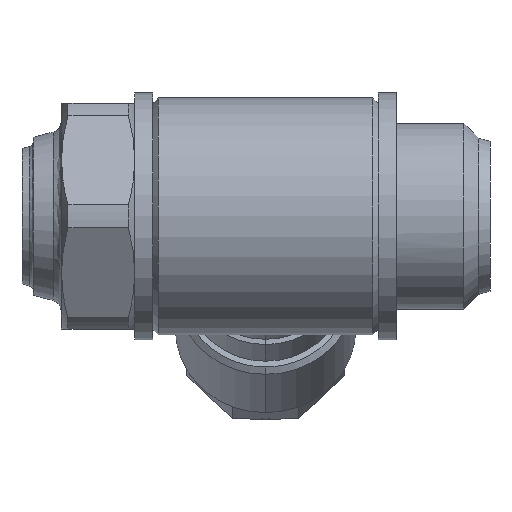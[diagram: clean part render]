
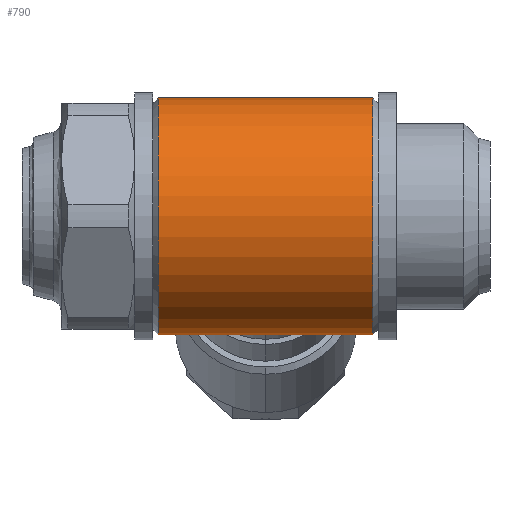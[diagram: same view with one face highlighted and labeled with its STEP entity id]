
A CAD part, left-side view. The second image highlights one B-rep face of the part: STEP entity #790.
In plain terms, the highlighted cylindrical face has radius 10.5 mm (diameter 21 mm), a partial arc.
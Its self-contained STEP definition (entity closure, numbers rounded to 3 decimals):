
#453 = CIRCLE ( 'NONE', #5473, 10.5 ) ;
#462 = EDGE_LOOP ( 'NONE', ( #2304, #4325, #1406, #5846 ) ) ;
#790 = ADVANCED_FACE ( 'NONE', ( #5904 ), #3350, .T. ) ;
#846 = VERTEX_POINT ( 'NONE', #4977 ) ;
#1132 = LINE ( 'NONE', #3075, #3676 ) ;
#1142 = CARTESIAN_POINT ( 'NONE',  ( 0., 8.9, 0. ) ) ;
#1406 = ORIENTED_EDGE ( 'NONE', *, *, #5541, .T. ) ;
#1482 = DIRECTION ( 'NONE',  ( 0., 1., 0. ) ) ;
#1626 = DIRECTION ( 'NONE',  ( 0., -1., 0. ) ) ;
#2024 = DIRECTION ( 'NONE',  ( 0., -1., 0. ) ) ;
#2267 = EDGE_CURVE ( 'NONE', #4008, #846, #3601, .T. ) ;
#2304 = ORIENTED_EDGE ( 'NONE', *, *, #4573, .F. ) ;
#2530 = AXIS2_PLACEMENT_3D ( 'NONE', #4341, #1482, #4816 ) ;
#2672 = DIRECTION ( 'NONE',  ( 0., -1., 0. ) ) ;
#2822 = VERTEX_POINT ( 'NONE', #4635 ) ;
#2909 = AXIS2_PLACEMENT_3D ( 'NONE', #1142, #4957, #4934 ) ;
#3075 = CARTESIAN_POINT ( 'NONE',  ( 0., 8.9, -10.5 ) ) ;
#3197 = CARTESIAN_POINT ( 'NONE',  ( 0., 29.4, -10.5 ) ) ;
#3350 = CYLINDRICAL_SURFACE ( 'NONE', #2909, 10.5 ) ;
#3601 = CIRCLE ( 'NONE', #2530, 10.5 ) ;
#3676 = VECTOR ( 'NONE', #1626, 1000. ) ;
#3726 = VERTEX_POINT ( 'NONE', #3197 ) ;
#4008 = VERTEX_POINT ( 'NONE', #4638 ) ;
#4124 = VECTOR ( 'NONE', #2672, 1000. ) ;
#4325 = ORIENTED_EDGE ( 'NONE', *, *, #6154, .T. ) ;
#4341 = CARTESIAN_POINT ( 'NONE',  ( 0., 10.4, 0. ) ) ;
#4560 = CARTESIAN_POINT ( 'NONE',  ( 0., 8.9, 10.5 ) ) ;
#4573 = EDGE_CURVE ( 'NONE', #2822, #846, #5387, .T. ) ;
#4635 = CARTESIAN_POINT ( 'NONE',  ( 0., 29.4, 10.5 ) ) ;
#4638 = CARTESIAN_POINT ( 'NONE',  ( 0., 10.4, -10.5 ) ) ;
#4816 = DIRECTION ( 'NONE',  ( 0., 0., -1. ) ) ;
#4877 = CARTESIAN_POINT ( 'NONE',  ( 0., 29.4, 0. ) ) ;
#4934 = DIRECTION ( 'NONE',  ( 0., 0., -1. ) ) ;
#4957 = DIRECTION ( 'NONE',  ( 0., -1., 0. ) ) ;
#4977 = CARTESIAN_POINT ( 'NONE',  ( 0., 10.4, 10.5 ) ) ;
#5357 = DIRECTION ( 'NONE',  ( 0., 0., -1. ) ) ;
#5387 = LINE ( 'NONE', #4560, #4124 ) ;
#5473 = AXIS2_PLACEMENT_3D ( 'NONE', #4877, #2024, #5357 ) ;
#5541 = EDGE_CURVE ( 'NONE', #3726, #4008, #1132, .T. ) ;
#5846 = ORIENTED_EDGE ( 'NONE', *, *, #2267, .T. ) ;
#5904 = FACE_OUTER_BOUND ( 'NONE', #462, .T. ) ;
#6154 = EDGE_CURVE ( 'NONE', #2822, #3726, #453, .T. ) ;
